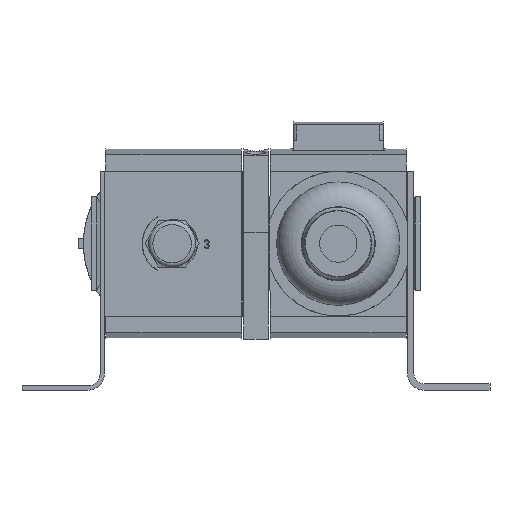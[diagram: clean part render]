
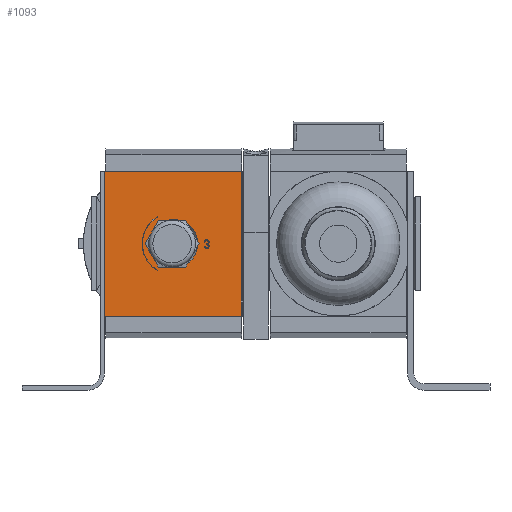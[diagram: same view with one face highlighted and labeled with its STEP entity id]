
A CAD part, front view. The second image highlights one B-rep face of the part: STEP entity #1093.
In plain terms, the highlighted planar face has unit normal (0, -1, 0).
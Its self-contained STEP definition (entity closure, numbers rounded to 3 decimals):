
#1093 = ADVANCED_FACE( '', ( #2474, #2475, #2476, #2477 ), #2478, .F. );
#2474 = FACE_BOUND( '', #4358, .T. );
#2475 = FACE_BOUND( '', #4359, .T. );
#2476 = FACE_BOUND( '', #4360, .T. );
#2477 = FACE_OUTER_BOUND( '', #4361, .T. );
#2478 = PLANE( '', #4362 );
#4358 = EDGE_LOOP( '', ( #6930, #6931, #6932, #6933, #6934, #6935, #6936 ) );
#4359 = EDGE_LOOP( '', ( #6937 ) );
#4360 = EDGE_LOOP( '', ( #6938, #6939, #6940, #6941 ) );
#4361 = EDGE_LOOP( '', ( #6942, #6943, #6944, #6945 ) );
#4362 = AXIS2_PLACEMENT_3D( '', #6946, #6947, #6948 );
#6930 = ORIENTED_EDGE( '', *, *, #11620, .T. );
#6931 = ORIENTED_EDGE( '', *, *, #11621, .T. );
#6932 = ORIENTED_EDGE( '', *, *, #11622, .T. );
#6933 = ORIENTED_EDGE( '', *, *, #11623, .T. );
#6934 = ORIENTED_EDGE( '', *, *, #11418, .F. );
#6935 = ORIENTED_EDGE( '', *, *, #11624, .T. );
#6936 = ORIENTED_EDGE( '', *, *, #11625, .F. );
#6937 = ORIENTED_EDGE( '', *, *, #11626, .F. );
#6938 = ORIENTED_EDGE( '', *, *, #11627, .T. );
#6939 = ORIENTED_EDGE( '', *, *, #11628, .T. );
#6940 = ORIENTED_EDGE( '', *, *, #11629, .F. );
#6941 = ORIENTED_EDGE( '', *, *, #11630, .T. );
#6942 = ORIENTED_EDGE( '', *, *, #11631, .F. );
#6943 = ORIENTED_EDGE( '', *, *, #11596, .F. );
#6944 = ORIENTED_EDGE( '', *, *, #11632, .F. );
#6945 = ORIENTED_EDGE( '', *, *, #11633, .T. );
#6946 = CARTESIAN_POINT( '', ( -5., -25., 22. ) );
#6947 = DIRECTION( '', ( 0., 1., 0. ) );
#6948 = DIRECTION( '', ( 0., 0., 1. ) );
#11418 = EDGE_CURVE( '', #13599, #13600, #13601, .T. );
#11596 = EDGE_CURVE( '', #13903, #13904, #13905, .T. );
#11620 = EDGE_CURVE( '', #13942, #13943, #13944, .T. );
#11621 = EDGE_CURVE( '', #13943, #13945, #13946, .T. );
#11622 = EDGE_CURVE( '', #13945, #13947, #13948, .T. );
#11623 = EDGE_CURVE( '', #13947, #13600, #13949, .T. );
#11624 = EDGE_CURVE( '', #13599, #13950, #13951, .T. );
#11625 = EDGE_CURVE( '', #13942, #13950, #13952, .T. );
#11626 = EDGE_CURVE( '', #13953, #13953, #13954, .T. );
#11627 = EDGE_CURVE( '', #13955, #13956, #13957, .T. );
#11628 = EDGE_CURVE( '', #13956, #13958, #13959, .T. );
#11629 = EDGE_CURVE( '', #13960, #13958, #13961, .T. );
#11630 = EDGE_CURVE( '', #13960, #13955, #13962, .T. );
#11631 = EDGE_CURVE( '', #13904, #13963, #13964, .T. );
#11632 = EDGE_CURVE( '', #13965, #13903, #13966, .T. );
#11633 = EDGE_CURVE( '', #13965, #13963, #13967, .T. );
#13599 = VERTEX_POINT( '', #16795 );
#13600 = VERTEX_POINT( '', #16796 );
#13601 = CIRCLE( '', #16797, 0.5 );
#13903 = VERTEX_POINT( '', #17205 );
#13904 = VERTEX_POINT( '', #17206 );
#13905 = LINE( '', #17207, #17208 );
#13942 = VERTEX_POINT( '', #17254 );
#13943 = VERTEX_POINT( '', #17255 );
#13944 = LINE( '', #17256, #17257 );
#13945 = VERTEX_POINT( '', #17258 );
#13946 = CIRCLE( '', #17259, 0.75 );
#13947 = VERTEX_POINT( '', #17260 );
#13948 = CIRCLE( '', #17261, 0.75 );
#13949 = LINE( '', #17262, #17263 );
#13950 = VERTEX_POINT( '', #17264 );
#13951 = LINE( '', #17265, #17266 );
#13952 = CIRCLE( '', #17267, 0.5 );
#13953 = VERTEX_POINT( '', #17268 );
#13954 = CIRCLE( '', #17269, 7.341 );
#13955 = VERTEX_POINT( '', #17270 );
#13956 = VERTEX_POINT( '', #17271 );
#13957 = CIRCLE( '', #17272, 9.6 );
#13958 = VERTEX_POINT( '', #17273 );
#13959 = LINE( '', #17274, #17275 );
#13960 = VERTEX_POINT( '', #17276 );
#13961 = CIRCLE( '', #17277, 9.5 );
#13962 = LINE( '', #17278, #17279 );
#13963 = VERTEX_POINT( '', #17280 );
#13964 = LINE( '', #17281, #17282 );
#13965 = VERTEX_POINT( '', #17283 );
#13966 = LINE( '', #17284, #17285 );
#13967 = LINE( '', #17286, #17287 );
#16795 = CARTESIAN_POINT( '', ( 10., -25., -0.25 ) );
#16796 = CARTESIAN_POINT( '', ( 9.5, -25., -0.75 ) );
#16797 = AXIS2_PLACEMENT_3D( '', #20823, #20824, #20825 );
#17205 = CARTESIAN_POINT( '', ( -21., -25., 22. ) );
#17206 = CARTESIAN_POINT( '', ( 20.5, -25., 22. ) );
#17207 = CARTESIAN_POINT( '', ( -5., -25., 22. ) );
#17208 = VECTOR( '', #21056, 1000. );
#17254 = CARTESIAN_POINT( '', ( 9.5, -25., 0.5 ) );
#17255 = CARTESIAN_POINT( '', ( 9.25, -25., 0.5 ) );
#17256 = CARTESIAN_POINT( '', ( 9.5, -25., 0.5 ) );
#17257 = VECTOR( '', #21093, 1000. );
#17258 = CARTESIAN_POINT( '', ( 10.415, -25., -0.125 ) );
#17259 = AXIS2_PLACEMENT_3D( '', #21094, #21095, #21096 );
#17260 = CARTESIAN_POINT( '', ( 9.25, -25., -0.75 ) );
#17261 = AXIS2_PLACEMENT_3D( '', #21097, #21098, #21099 );
#17262 = CARTESIAN_POINT( '', ( 9.25, -25., -0.75 ) );
#17263 = VECTOR( '', #21100, 1000. );
#17264 = CARTESIAN_POINT( '', ( 10., -25., 0. ) );
#17265 = CARTESIAN_POINT( '', ( 10., -25., -0.25 ) );
#17266 = VECTOR( '', #21101, 1000. );
#17267 = AXIS2_PLACEMENT_3D( '', #21102, #21103, #21104 );
#17268 = CARTESIAN_POINT( '', ( 0., -25., -7.341 ) );
#17269 = AXIS2_PLACEMENT_3D( '', #21105, #21106, #21107 );
#17270 = CARTESIAN_POINT( '', ( -5., -25., -8.195 ) );
#17271 = CARTESIAN_POINT( '', ( -5., -25., 8.195 ) );
#17272 = AXIS2_PLACEMENT_3D( '', #21108, #21109, #21110 );
#17273 = CARTESIAN_POINT( '', ( -5., -25., 8.078 ) );
#17274 = CARTESIAN_POINT( '', ( -5., -25., 22. ) );
#17275 = VECTOR( '', #21111, 1000. );
#17276 = CARTESIAN_POINT( '', ( -5., -25., -8.078 ) );
#17277 = AXIS2_PLACEMENT_3D( '', #21112, #21113, #21114 );
#17278 = CARTESIAN_POINT( '', ( -5., -25., 22. ) );
#17279 = VECTOR( '', #21115, 1000. );
#17280 = CARTESIAN_POINT( '', ( 20.5, -25., -22. ) );
#17281 = CARTESIAN_POINT( '', ( 20.5, -25., 22. ) );
#17282 = VECTOR( '', #21116, 1000. );
#17283 = CARTESIAN_POINT( '', ( -21., -25., -22. ) );
#17284 = CARTESIAN_POINT( '', ( -21., -25., -22. ) );
#17285 = VECTOR( '', #21117, 1000. );
#17286 = CARTESIAN_POINT( '', ( -5., -25., -22. ) );
#17287 = VECTOR( '', #21118, 1000. );
#20823 = CARTESIAN_POINT( '', ( 10., -25., -0.75 ) );
#20824 = DIRECTION( '', ( 0., 1., 0. ) );
#20825 = DIRECTION( '', ( 1., 0., 0. ) );
#21056 = DIRECTION( '', ( 1., 0., 0. ) );
#21093 = DIRECTION( '', ( -1., 0., 0. ) );
#21094 = CARTESIAN_POINT( '', ( 10., -25., 0.5 ) );
#21095 = DIRECTION( '', ( 0., 1., 0. ) );
#21096 = DIRECTION( '', ( 1., 0., 0. ) );
#21097 = CARTESIAN_POINT( '', ( 10., -25., -0.75 ) );
#21098 = DIRECTION( '', ( 0., 1., 0. ) );
#21099 = DIRECTION( '', ( 1., 0., 0. ) );
#21100 = DIRECTION( '', ( 1., 0., 0. ) );
#21101 = DIRECTION( '', ( 0., 0., 1. ) );
#21102 = CARTESIAN_POINT( '', ( 10., -25., 0.5 ) );
#21103 = DIRECTION( '', ( 0., 1., 0. ) );
#21104 = DIRECTION( '', ( 1., 0., 0. ) );
#21105 = CARTESIAN_POINT( '', ( 0., -25., 0. ) );
#21106 = DIRECTION( '', ( 0., -1., 0. ) );
#21107 = DIRECTION( '', ( 0., 0., -1. ) );
#21108 = CARTESIAN_POINT( '', ( 0., -25., 0. ) );
#21109 = DIRECTION( '', ( 0., 1., 0. ) );
#21110 = DIRECTION( '', ( 1., 0., 0. ) );
#21111 = DIRECTION( '', ( 0., 0., -1. ) );
#21112 = CARTESIAN_POINT( '', ( 0., -25., 0. ) );
#21113 = DIRECTION( '', ( 0., 1., 0. ) );
#21114 = DIRECTION( '', ( 1., 0., 0. ) );
#21115 = DIRECTION( '', ( 0., 0., -1. ) );
#21116 = DIRECTION( '', ( 0., 0., -1. ) );
#21117 = DIRECTION( '', ( 0., 0., 1. ) );
#21118 = DIRECTION( '', ( 1., 0., 0. ) );
